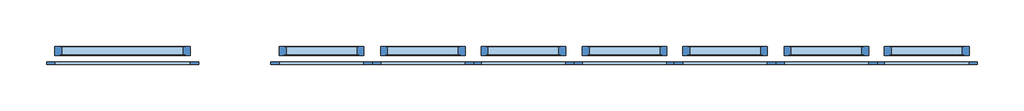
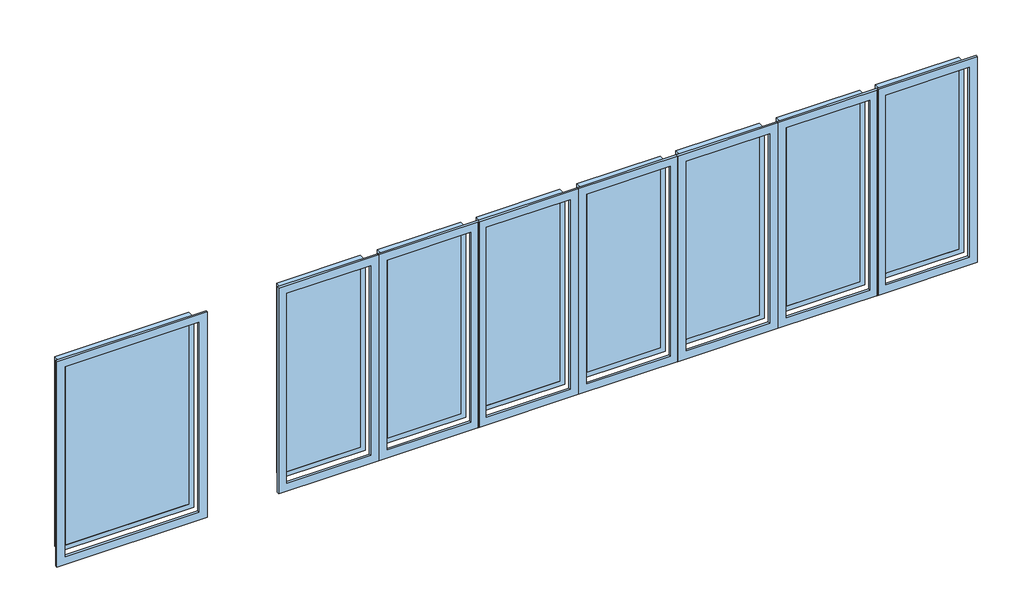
# One storey: 8 windows.
"""IFC4 building model written with IfcOpenShell, lengths in millimetres."""

import ifcopenshell
import ifcopenshell.guid

model = None  # the IFC model being written
_history = None  # IfcOwnerHistory: only IFC2X3 demands one
_inside = {}  # id of a spatial element -> (the spatial element, [elements in it])
_under = {}  # id of a project, library or spatial element -> (it, [spatial elements below it])
_declared = {}  # id of a project -> (the project, [libraries it declares])
_typed = {}  # id of a type object -> (the type object, [elements of that type])
_made_of = {}  # id of a material, layer set ... -> (it, [elements and type objects made of it])


def new_model(schema):
    """Start an empty IFC model of exactly this schema.

    Asked for "IFC4X3", IfcOpenShell would pick the latest addendum, in which some entities
    have other attributes; the version numbers below select the first issue.
    IFC2X3 requires an IfcOwnerHistory on every rooted entity: one is made here for all.
    """
    global model, _history
    if schema == "IFC4X3":
        model = ifcopenshell.file(schema_version=(4, 3, 0, 0))
    else:
        model = ifcopenshell.file(schema=schema)
    _inside.clear()
    _under.clear()
    _declared.clear()
    _typed.clear()
    _made_of.clear()
    _history = None
    if model.schema == "IFC2X3":
        org = make("IfcOrganization", Name="unknown")
        user = make(
            "IfcPersonAndOrganization",
            ThePerson=make("IfcPerson", FamilyName="unknown"),
            TheOrganization=org,
        )
        app = make(
            "IfcApplication",
            ApplicationDeveloper=org,
            Version="unknown",
            ApplicationFullName="unknown",
            ApplicationIdentifier="unknown",
        )
        _history = make(
            "IfcOwnerHistory",
            OwningUser=user,
            OwningApplication=app,
            ChangeAction="ADDED",
            CreationDate=0,
        )
    return model


def make(cls, **values):
    """One entity of the class cls with the attributes given. An attribute that is None is left unset."""
    return model.create_entity(
        cls, **{name: value for name, value in values.items() if value is not None}
    )


def rooted(cls, **values):
    """An entity with a GlobalId (a new one), such as an element, a storey or a relation."""
    return make(cls, GlobalId=ifcopenshell.guid.new(), OwnerHistory=_history, **values)


def si_unit(unit_type, name, prefix=None):
    """IfcSIUnit, for example si_unit("LENGTHUNIT", "METRE", prefix="MILLI")."""
    return make("IfcSIUnit", UnitType=unit_type, Prefix=prefix, Name=name)


def assignment(units):
    """IfcUnitAssignment: the units of a project."""
    return None if units is None else make("IfcUnitAssignment", Units=units)


def point(xyz):
    """IfcCartesianPoint."""
    return None if xyz is None else make("IfcCartesianPoint", Coordinates=xyz)


def direction(xyz):
    """IfcDirection."""
    return None if xyz is None else make("IfcDirection", DirectionRatios=xyz)


def frame(location, z_axis=None, x_axis=None):
    """IfcAxis2Placement3D, a coordinate frame: its origin and axes. An axis left out is left unset."""
    return make(
        "IfcAxis2Placement3D",
        Location=point(location),
        Axis=direction(z_axis),
        RefDirection=direction(x_axis),
    )


def origin():
    """The frame at (0, 0, 0) with its axes left unset."""
    return frame((0.0, 0.0, 0.0))


def place(relative_to, where):
    """IfcLocalPlacement: puts the frame where relative to a parent placement (None: the world)."""
    return make(
        "IfcLocalPlacement", PlacementRelTo=relative_to, RelativePlacement=where
    )


def context(
    kind, dimensions, precision=None, world=None, true_north=None, identifier=None
):
    """IfcGeometricRepresentationContext, for example the 3D "Model" context."""
    return make(
        "IfcGeometricRepresentationContext",
        ContextIdentifier=identifier,
        ContextType=kind,
        CoordinateSpaceDimension=dimensions,
        Precision=precision,
        WorldCoordinateSystem=world,
        TrueNorth=true_north,
    )


def project(units=None, contexts=None):
    """IfcProject with its units and contexts."""
    return rooted(
        "IfcProject",
        Name="project",
        RepresentationContexts=contexts,
        UnitsInContext=assignment(units),
    )


def spatial(cls, under=None, at=None, **own):
    """A site, building, storey or space (cls), placed at a placement, below another one or the project."""
    s = rooted(cls, ObjectPlacement=at, **own)
    if under is not None:
        _under.setdefault(under.id(), (under, []))[1].append(s)
    return s


def polyline(points):
    """IfcPolyline through the points."""
    return make("IfcPolyline", Points=[point(p) for p in points])


def outline(outer, holes=None, kind="AREA"):
    """IfcArbitraryClosedProfileDef: a profile drawn as a closed curve; with holes, ...WithVoids."""
    if holes is None:
        return make("IfcArbitraryClosedProfileDef", ProfileType=kind, OuterCurve=outer)
    return make(
        "IfcArbitraryProfileDefWithVoids",
        ProfileType=kind,
        OuterCurve=outer,
        InnerCurves=holes,
    )


def extrude(swept, where, along, depth):
    """IfcExtrudedAreaSolid: the profile swept, set in the frame where, extruded along a direction by depth."""
    return make(
        "IfcExtrudedAreaSolid",
        SweptArea=swept,
        Position=where,
        ExtrudedDirection=direction(along),
        Depth=depth,
    )


def faces_of(points, faces, orient=None, outer=None):
    """IfcFace entities. A face is a list of loops; a loop is a list of indices into points, from 0.

    orient and outer hold one flag for each loop. By default every Orientation is true, the
    first loop of a face is its IfcFaceOuterBound and the others are IfcFaceBound.
    """
    made = []
    for i, loops in enumerate(faces):
        bounds = []
        for j, loop in enumerate(loops):
            is_outer = j == 0 if outer is None else outer[i][j]
            bounds.append(
                make(
                    "IfcFaceOuterBound" if is_outer else "IfcFaceBound",
                    Bound=make("IfcPolyLoop", Polygon=[points[k] for k in loop]),
                    Orientation=True if orient is None else orient[i][j],
                )
            )
        made.append(make("IfcFace", Bounds=bounds))
    return made


def faceted_brep(points, faces, orient=None, outer=None, voids=None):
    """IfcFacetedBrep: a solid bounded by flat faces; with voids (closed shells), ...WithVoids."""
    shared = [point(p) for p in points]
    hull = make("IfcClosedShell", CfsFaces=faces_of(shared, faces, orient, outer))
    if voids is None:
        return make("IfcFacetedBrep", Outer=hull)
    return make(
        "IfcFacetedBrepWithVoids",
        Outer=hull,
        Voids=[
            make(cls, CfsFaces=faces_of(shared, fs, o, b)) for cls, fs, o, b in voids
        ],
    )


def shape(context_of_items, identifier, shape_type, items):
    """IfcShapeRepresentation: the items that make up one representation, for example the "Body"."""
    return make(
        "IfcShapeRepresentation",
        ContextOfItems=context_of_items,
        RepresentationIdentifier=identifier,
        RepresentationType=shape_type,
        Items=items,
    )


def source(mapping_origin, context_of_items, identifier, shape_type, items):
    """IfcRepresentationMap: a shape defined once, which mapped items show again and again."""
    return make(
        "IfcRepresentationMap",
        MappingOrigin=mapping_origin,
        MappedRepresentation=shape(context_of_items, identifier, shape_type, items),
    )


def transform(
    local_origin,
    x_axis=None,
    y_axis=None,
    z_axis=None,
    scale=None,
    scale2=None,
    scale3=None,
    uniform=True,
):
    """IfcCartesianTransformationOperator3D, or its non-uniform kind. x_axis, y_axis, z_axis: its Axis1, 2, 3."""
    if uniform:
        return make(
            "IfcCartesianTransformationOperator3D",
            Axis1=direction(x_axis),
            Axis2=direction(y_axis),
            LocalOrigin=point(local_origin),
            Scale=scale,
            Axis3=direction(z_axis),
        )
    return make(
        "IfcCartesianTransformationOperator3DnonUniform",
        Axis1=direction(x_axis),
        Axis2=direction(y_axis),
        LocalOrigin=point(local_origin),
        Scale=scale,
        Axis3=direction(z_axis),
        Scale2=scale2,
        Scale3=scale3,
    )


def mapped(mapping_source, mapping_target):
    """IfcMappedItem: shows the shape of a source again, moved by a transform."""
    return make(
        "IfcMappedItem", MappingSource=mapping_source, MappingTarget=mapping_target
    )


def made_of(thing, what):
    """Note that an element or type object is made of a material, layer set ...; save() writes the relation."""
    if what is not None:
        _made_of.setdefault(what.id(), (what, []))[1].append(thing)
    return thing


def element(
    cls,
    number,
    at=None,
    inside=None,
    cuts=None,
    type_object=None,
    material=None,
    context=None,
    identifier="Body",
    shape_type=None,
    held_by="IfcProductDefinitionShape",
    body=None,
    shapes=None,
    **own,
):
    """One element of the class cls, such as IfcWall. Its Tag is "e" and its number.

    at: its placement. inside: the storey or other place that contains it. cuts: it is an
    opening in that element (IfcRelVoidsElement). A single representation is given by context,
    identifier, shape_type and body (its items); several are given by shapes. held_by: the class
    of the entity that holds the representations. save() writes the other relations.
    """
    e = rooted(cls, Tag="e%d" % number, ObjectPlacement=at, **own)
    if body is not None:
        shapes = [shape(context, identifier, shape_type, body)]
    if shapes is not None:
        e.Representation = make(held_by, Representations=shapes)
    if inside is not None:
        _inside.setdefault(inside.id(), (inside, []))[1].append(e)
    if cuts is not None:
        rooted(
            "IfcRelVoidsElement", RelatingBuildingElement=cuts, RelatedOpeningElement=e
        )
    if type_object is not None:
        _typed.setdefault(type_object.id(), (type_object, []))[1].append(e)
    return made_of(e, material)


def aggregate(whole, parts):
    """IfcRelAggregates: a whole, such as a stair, and the parts it consists of."""
    return rooted("IfcRelAggregates", RelatingObject=whole, RelatedObjects=parts)


def save(model, path):
    """Write the relations noted so far, then the file.

    IfcRelAggregates (storeys below a building ...), IfcRelContainedInSpatialStructure (elements
    in a storey), IfcRelDefinesByType, IfcRelAssociatesMaterial and IfcRelDeclares: one each for
    every whole, place, type object, material and project.
    """
    for whole, parts in _under.values():
        aggregate(whole, parts)
    for where, things in _inside.values():
        rooted(
            "IfcRelContainedInSpatialStructure",
            RelatedElements=things,
            RelatingStructure=where,
        )
    for kind, things in _typed.values():
        rooted("IfcRelDefinesByType", RelatedObjects=things, RelatingType=kind)
    for what, things in _made_of.values():
        rooted("IfcRelAssociatesMaterial", RelatedObjects=things, RelatingMaterial=what)
    for by, libraries in _declared.values():
        rooted("IfcRelDeclares", RelatingContext=by, RelatedDefinitions=libraries)
    model.write(path)


def window_fixed_trim_with_double_glass_750_x_1500_mm_20c75347(model_context):
    return source(origin(), model_context, "Body", "SolidModel", [
        extrude(outline(polyline([(330.0, 40.0), (330.0, 36.0), (-330.0, 36.0), (-330.0, 40.0), (330.0, 40.0)])), frame((0.0, 0.0, 845.0), z_axis=(0.0, 0.0, 1.0), x_axis=(1.0, 0.0, 0.0)), (0.0, 0.0, 1.0), 1710.0),
        extrude(outline(polyline([(330.0, -36.0), (330.0, -40.0), (-330.0, -40.0), (-330.0, -36.0), (330.0, -36.0)])), frame((0.0, 0.0, 845.0), z_axis=(0.0, 0.0, 1.0), x_axis=(1.0, 0.0, 0.0)), (0.0, 0.0, 1.0), 1710.0),
        faceted_brep([(-330.0, 36.0, 2555.0), (-330.0, 40.0, 2555.0), (330.0, 40.0, 2555.0), (330.0, 36.0, 2555.0), (-315.0, -36.0, 2540.0), (-315.0, 36.0, 2540.0), (315.0, 36.0, 2540.0), (315.0, -36.0, 2540.0), (-330.0, -40.0, 2555.0), (-330.0, -36.0, 2555.0), (330.0, -36.0, 2555.0), (330.0, -40.0, 2555.0), (-375.0, 40.0, 2600.0), (-375.0, -40.0, 2600.0), (375.0, -40.0, 2600.0), (375.0, 40.0, 2600.0), (330.0, 40.0, 845.0), (330.0, 36.0, 845.0), (315.0, 36.0, 860.0), (315.0, -36.0, 860.0), (330.0, -36.0, 845.0), (330.0, -40.0, 845.0), (375.0, -40.0, 800.0), (375.0, 40.0, 800.0), (-330.0, 40.0, 845.0), (-330.0, 36.0, 845.0), (-315.0, 36.0, 860.0), (-315.0, -36.0, 860.0), (-330.0, -36.0, 845.0), (-330.0, -40.0, 845.0), (-375.0, -40.0, 800.0), (-375.0, 40.0, 800.0)], [[[0, 1, 2, 3]], [[4, 5, 6, 7]], [[8, 9, 10, 11]], [[12, 13, 14, 15]], [[3, 2, 16, 17]], [[7, 6, 18, 19]], [[11, 10, 20, 21]], [[15, 14, 22, 23]], [[17, 16, 24, 25]], [[19, 18, 26, 27]], [[21, 20, 28, 29]], [[23, 22, 30, 31]], [[15, 23, 31, 12], [1, 24, 16, 2]], [[25, 24, 1, 0]], [[3, 17, 25, 0], [5, 26, 18, 6]], [[27, 26, 5, 4]], [[9, 28, 20, 10], [7, 19, 27, 4]], [[29, 28, 9, 8]], [[13, 30, 22, 14], [11, 21, 29, 8]], [[31, 30, 13, 12]]]),
        extrude(outline(polyline([(2675.0, -450.0), (725.0, -450.0), (725.0, 450.0), (2675.0, 450.0), (2675.0, -450.0)]), holes=[polyline([(2600.0, -375.0), (2600.0, 375.0), (800.0, 375.0), (800.0, -375.0), (2600.0, -375.0)])]), frame((0.0, 100.0, 0.0), z_axis=(0.0, 1.0, 0.0), x_axis=(0.0, 0.0, 1.0)), (0.0, 0.0, 1.0), 20.0),
    ])


def window_fixed_trim_with_double_glass_750_x_1500_mm_2_a35bcce7(model_context):
    return source(origin(), model_context, "Body", "SolidModel", [
        extrude(outline(polyline([(555.0, 40.0), (555.0, 36.0), (-555.0, 36.0), (-555.0, 40.0), (555.0, 40.0)])), frame((0.0, 0.0, 845.0), z_axis=(0.0, 0.0, 1.0), x_axis=(1.0, 0.0, 0.0)), (0.0, 0.0, 1.0), 1710.0),
        extrude(outline(polyline([(555.0, -36.0), (555.0, -40.0), (-555.0, -40.0), (-555.0, -36.0), (555.0, -36.0)])), frame((0.0, 0.0, 845.0), z_axis=(0.0, 0.0, 1.0), x_axis=(1.0, 0.0, 0.0)), (0.0, 0.0, 1.0), 1710.0),
        faceted_brep([(-555.0, 36.0, 2555.0), (-555.0, 40.0, 2555.0), (555.0, 40.0, 2555.0), (555.0, 36.0, 2555.0), (-540.0, -36.0, 2540.0), (-540.0, 36.0, 2540.0), (540.0, 36.0, 2540.0), (540.0, -36.0, 2540.0), (-555.0, -40.0, 2555.0), (-555.0, -36.0, 2555.0), (555.0, -36.0, 2555.0), (555.0, -40.0, 2555.0), (-600.0, 40.0, 2600.0), (-600.0, -40.0, 2600.0), (600.0, -40.0, 2600.0), (600.0, 40.0, 2600.0), (555.0, 40.0, 845.0), (555.0, 36.0, 845.0), (540.0, 36.0, 860.0), (540.0, -36.0, 860.0), (555.0, -36.0, 845.0), (555.0, -40.0, 845.0), (600.0, -40.0, 800.0), (600.0, 40.0, 800.0), (-555.0, 40.0, 845.0), (-555.0, 36.0, 845.0), (-540.0, 36.0, 860.0), (-540.0, -36.0, 860.0), (-555.0, -36.0, 845.0), (-555.0, -40.0, 845.0), (-600.0, -40.0, 800.0), (-600.0, 40.0, 800.0)], [[[0, 1, 2, 3]], [[4, 5, 6, 7]], [[8, 9, 10, 11]], [[12, 13, 14, 15]], [[3, 2, 16, 17]], [[7, 6, 18, 19]], [[11, 10, 20, 21]], [[15, 14, 22, 23]], [[17, 16, 24, 25]], [[19, 18, 26, 27]], [[21, 20, 28, 29]], [[23, 22, 30, 31]], [[15, 23, 31, 12], [1, 24, 16, 2]], [[25, 24, 1, 0]], [[3, 17, 25, 0], [5, 26, 18, 6]], [[27, 26, 5, 4]], [[9, 28, 20, 10], [7, 19, 27, 4]], [[29, 28, 9, 8]], [[13, 30, 22, 14], [11, 21, 29, 8]], [[31, 30, 13, 12]]]),
        extrude(outline(polyline([(2675.0, -675.0), (725.0, -675.0), (725.0, 675.0), (2675.0, 675.0), (2675.0, -675.0)]), holes=[polyline([(2600.0, -600.0), (2600.0, 600.0), (800.0, 600.0), (800.0, -600.0), (2600.0, -600.0)])]), frame((0.0, 100.0, 0.0), z_axis=(0.0, 1.0, 0.0), x_axis=(0.0, 0.0, 1.0)), (0.0, 0.0, 1.0), 20.0),
    ])


model = new_model("IFC4")

# Units and contexts
model_context = context("Model", 3, world=origin())
ifc_project = project(units=[si_unit("LENGTHUNIT", "METRE", prefix="MILLI")], contexts=[model_context])

# Site, building, storey
site = spatial("IfcSite", under=ifc_project)
building = spatial("IfcBuilding", under=site)
storey = spatial("IfcBuildingStorey", under=building, Name="طبقه 2", Elevation=6400.0)

# Windows
placement = place(None, origin())
window_fixed_trim_with_double_glass_750_x_1500_mm_shape = window_fixed_trim_with_double_glass_750_x_1500_mm_20c75347(model_context)
element("IfcWindow", 1, ObjectType="Window fixed-trim with double glass : 750 x 1500 mm", at=placement, inside=storey, context=model_context, shape_type="MappedRepresentation", body=[
    mapped(window_fixed_trim_with_double_glass_750_x_1500_mm_shape, transform((1723.1054099, 931.9973325, 6225.0), x_axis=(-1.0, 0.0, 0.0), y_axis=(0.0, -1.0, 0.0), z_axis=(0.0, 0.0, 1.0))),
])
element("IfcWindow", 2, ObjectType="Window fixed-trim with double glass : 750 x 1500 mm", at=placement, inside=storey, context=model_context, shape_type="MappedRepresentation", body=[
    mapped(window_fixed_trim_with_double_glass_750_x_1500_mm_shape, transform((833.1054099, 931.9973325, 6225.0), x_axis=(-1.0, 0.0, 0.0), y_axis=(0.0, -1.0, 0.0), z_axis=(0.0, 0.0, 1.0))),
])
element("IfcWindow", 3, ObjectType="Window fixed-trim with double glass : 750 x 1500 mm", at=placement, inside=storey, context=model_context, shape_type="MappedRepresentation", body=[
    mapped(window_fixed_trim_with_double_glass_750_x_1500_mm_shape, transform((-66.8945901, 931.9973325, 6225.0), x_axis=(-1.0, 0.0, 0.0), y_axis=(0.0, -1.0, 0.0), z_axis=(0.0, 0.0, 1.0))),
])
element("IfcWindow", 4, ObjectType="Window fixed-trim with double glass : 750 x 1500 mm", at=placement, inside=storey, context=model_context, shape_type="MappedRepresentation", body=[
    mapped(window_fixed_trim_with_double_glass_750_x_1500_mm_shape, transform((-956.8945901, 931.9973325, 6225.0), x_axis=(-1.0, 0.0, 0.0), y_axis=(0.0, -1.0, 0.0), z_axis=(0.0, 0.0, 1.0))),
])
element("IfcWindow", 5, ObjectType="Window fixed-trim with double glass : 750 x 1500 mm", at=placement, inside=storey, context=model_context, shape_type="MappedRepresentation", body=[
    mapped(window_fixed_trim_with_double_glass_750_x_1500_mm_shape, transform((-1856.8945901, 931.9973325, 6225.0), x_axis=(-1.0, 0.0, 0.0), y_axis=(0.0, -1.0, 0.0), z_axis=(0.0, 0.0, 1.0))),
])
element("IfcWindow", 6, ObjectType="Window fixed-trim with double glass : 750 x 1500 mm", at=placement, inside=storey, context=model_context, shape_type="MappedRepresentation", body=[
    mapped(window_fixed_trim_with_double_glass_750_x_1500_mm_shape, transform((-2746.8945901, 931.9973325, 6225.0), x_axis=(-1.0, 0.0, 0.0), y_axis=(0.0, -1.0, 0.0), z_axis=(0.0, 0.0, 1.0))),
])
element("IfcWindow", 7, ObjectType="Window fixed-trim with double glass : 750 x 1500 mm", at=placement, inside=storey, context=model_context, shape_type="MappedRepresentation", body=[
    mapped(window_fixed_trim_with_double_glass_750_x_1500_mm_shape, transform((-3646.8945901, 931.9973325, 6225.0), x_axis=(-1.0, 0.0, 0.0), y_axis=(0.0, -1.0, 0.0), z_axis=(0.0, 0.0, 1.0))),
])
window_fixed_trim_with_double_glass_750_x_1500_mm_2_shape = window_fixed_trim_with_double_glass_750_x_1500_mm_2_a35bcce7(model_context)
element("IfcWindow", 8, ObjectType="Window fixed-trim with double glass : 750 x 1500 mm 2", at=placement, inside=storey, context=model_context, shape_type="MappedRepresentation", body=[
    mapped(window_fixed_trim_with_double_glass_750_x_1500_mm_2_shape, transform((-5411.8945901, 931.9973325, 6225.0), x_axis=(-1.0, 0.0, 0.0), y_axis=(0.0, -1.0, 0.0), z_axis=(0.0, 0.0, 1.0))),
])

save(model, "model.ifc")
